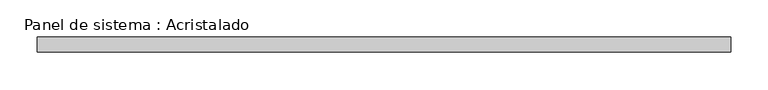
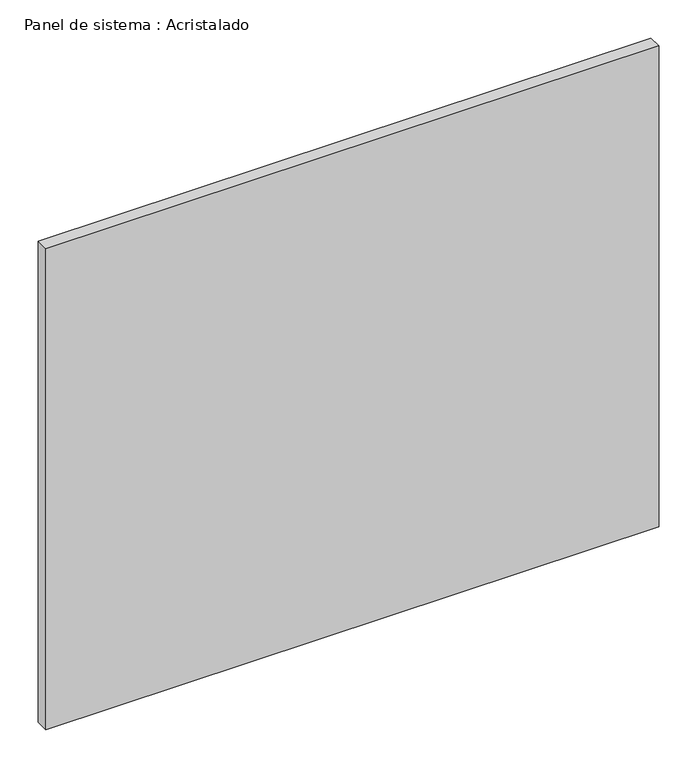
"""IFC4 building model written with IfcOpenShell, lengths in millimetres: plate geometry, Panel de sistema : Acristalado."""

from ifc_helpers import new_model, si_unit, origin, origin_with_axes, place, context, project, spatial, polyline, outline, extrude, source, transform, mapped, element, save


def panel_de_sistema_acristalado_4c11c006(model_context):
    return source(origin(), model_context, "Body", "SweptSolid", [
        extrude(outline(polyline([(462.3790597, -10.0), (-462.3790597, -10.0), (-462.3790597, 10.0), (462.3790597, 10.0), (462.3790597, -10.0)])), origin_with_axes(), (0.0, 0.0, 1.0), 766.6666667),
    ])


if __name__ == "__main__":
    model = new_model("IFC4")
    model_context = context("Model", 3, world=origin())
    ifc_project = project(units=[si_unit("LENGTHUNIT", "METRE", prefix="MILLI")], contexts=[model_context])
    site = spatial("IfcSite", under=ifc_project)
    building = spatial("IfcBuilding", under=site)
    placement = place(None, origin())
    panel_de_sistema_acristalado_shape = panel_de_sistema_acristalado_4c11c006(model_context)
    element("IfcPlate", 1, ObjectType="Panel de sistema : Acristalado", at=placement, inside=building, context=model_context, shape_type="MappedRepresentation", body=[
        mapped(panel_de_sistema_acristalado_shape, transform((0.0, 0.0, 0.0), x_axis=(1.0, 0.0, 0.0), y_axis=(0.0, 1.0, 0.0), z_axis=(0.0, 0.0, 1.0))),
    ])
    save(model, "model.ifc")
